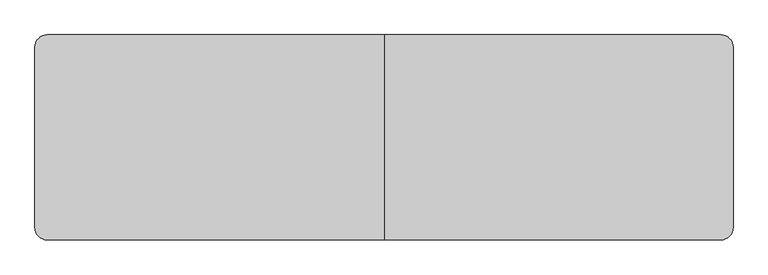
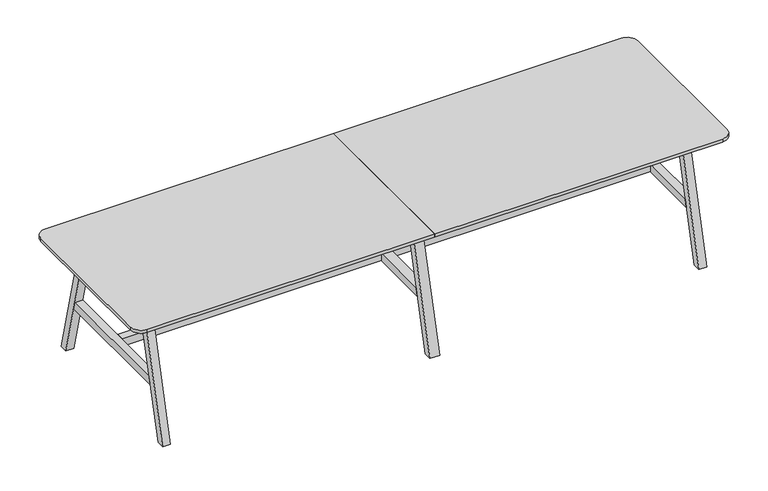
"""IFC4 building model written with IfcOpenShell, lengths in millimetres: furniture geometry, BDG_BossDesign_Tbls_AgentTables6Legs : AGE-DT-6L-3400-1000-3D."""

from ifc_helpers import new_model, si_unit, point, frame, frame_2d, origin, place, context, project, spatial, polyline, circle_curve, trimmed, segment, composite_curve, outline, extrude, source, transform, mapped, element, save


def furniture_128a932d(model_context):
    return source(origin(), model_context, "Body", "SweptSolid", [
        extrude(outline(polyline([(500.0, 0.0), (454.9999949, 0.0), (285.5, 660.0), (330.5000051, 660.0), (500.0, 0.0)])), frame((-27.5, 0.0, 0.0), z_axis=(1.0, 0.0, 0.0), x_axis=(0.0, 1.0, 0.0)), (0.0, 0.0, 1.0), 55.0),
        extrude(outline(polyline([(-500.0, 0.0), (-330.5000051, 660.0), (-285.5, 660.0), (-454.9999949, 0.0), (-500.0, 0.0)])), frame((-27.5, 0.0, 0.0), z_axis=(1.0, 0.0, 0.0), x_axis=(0.0, 1.0, 0.0)), (0.0, 0.0, 1.0), 55.0),
        extrude(outline(polyline([(377.9545427, 300.0), (-377.9545427, 300.0), (-366.3977249, 345.0), (366.3977249, 345.0), (377.9545427, 300.0)])), frame((-27.5, 0.0, 0.0), z_axis=(1.0, 0.0, 0.0), x_axis=(0.0, 1.0, 0.0)), (0.0, 0.0, 1.0), 55.0),
        extrude(outline(composite_curve([segment(polyline([(0.0, 500.0), (0.0, -500.0), (-1640.0, -500.0)]), True, "CONTINUOUS"), segment(trimmed(circle_curve(frame_2d((-1640.0, -440.0)), 60.0), [point((-1640.0, -500.0))], [point((-1700.0, -440.0))], False, "CARTESIAN"), True, "CONTINUOUS"), segment(polyline([(-1700.0, -440.0), (-1700.0, 440.0)]), True, "CONTINUOUS"), segment(trimmed(circle_curve(frame_2d((-1640.0, 440.0)), 60.0), [point((-1700.0, 440.0))], [point((-1640.0, 500.0))], False, "CARTESIAN"), True, "CONTINUOUS"), segment(polyline([(-1640.0, 500.0), (0.0, 500.0)]), True, "CONTINUOUS")], self_intersect=False)), frame((0.0, 0.0, 722.0), z_axis=(0.0, 0.0, 1.0), x_axis=(1.0, 0.0, 0.0)), (0.0, 0.0, 1.0), 18.0),
        extrude(outline(polyline([(-366.3977249, 345.0), (366.3977249, 345.0), (377.9545427, 300.0), (-377.9545427, 300.0), (-366.3977249, 345.0)])), frame((1505.0, 0.0, 0.0), z_axis=(1.0, 0.0, 0.0), x_axis=(0.0, 1.0, 0.0)), (0.0, 0.0, 1.0), 45.0),
        extrude(outline(polyline([(500.0, 0.0), (454.9999949, 0.0), (285.5, 660.0), (330.5000051, 660.0), (500.0, 0.0)])), frame((-1550.0, 0.0, 0.0), z_axis=(1.0, 0.0, 0.0), x_axis=(0.0, 1.0, 0.0)), (0.0, 0.0, 1.0), 45.0),
        extrude(outline(polyline([(-500.0, 0.0), (-330.5000051, 660.0), (-285.5, 660.0), (-454.9999949, 0.0), (-500.0, 0.0)])), frame((-1550.0, 0.0, 0.0), z_axis=(1.0, 0.0, 0.0), x_axis=(0.0, 1.0, 0.0)), (0.0, 0.0, 1.0), 45.0),
        extrude(outline(polyline([(-366.3977249, 345.0), (366.3977249, 345.0), (377.9545427, 300.0), (-377.9545427, 300.0), (-366.3977249, 345.0)])), frame((-1550.0, 0.0, 0.0), z_axis=(1.0, 0.0, 0.0), x_axis=(0.0, 1.0, 0.0)), (0.0, 0.0, 1.0), 45.0),
        extrude(outline(polyline([(-326.6006165, 634.973938), (-304.2770691, 722.0), (-279.5, 722.0), (-301.8235474, 634.973938), (-326.6006165, 634.973938)])), frame((-1505.0, 0.0, 0.0), z_axis=(1.0, 0.0, 0.0), x_axis=(0.0, 1.0, 0.0)), (0.0, 0.0, 1.0), 3010.0),
        extrude(outline(polyline([(326.6006165, 634.973938), (301.8235474, 634.973938), (279.5, 722.0), (304.2770691, 722.0), (326.6006165, 634.973938)])), frame((-1505.0, 0.0, 0.0), z_axis=(1.0, 0.0, 0.0), x_axis=(0.0, 1.0, 0.0)), (0.0, 0.0, 1.0), 3010.0),
        extrude(outline(polyline([(499.7999878, 0.0), (454.7999827, 0.0), (285.5, 660.0), (330.5000051, 660.0), (499.7999878, 0.0)])), frame((1505.0, 0.0, 0.0), z_axis=(1.0, 0.0, 0.0), x_axis=(0.0, 1.0, 0.0)), (0.0, 0.0, 1.0), 45.0),
        extrude(outline(polyline([(-499.7999878, 0.0), (-330.5000051, 660.0), (-285.5, 660.0), (-454.7999827, 0.0), (-499.7999878, 0.0)])), frame((1505.0, 0.0, 0.0), z_axis=(1.0, 0.0, 0.0), x_axis=(0.0, 1.0, 0.0)), (0.0, 0.0, 1.0), 45.0),
        extrude(outline(polyline([(-27.5, 22.5000305), (-27.5, -22.5000305), (-1505.0, -22.5000305), (-1505.0, 22.5000305), (-27.5, 22.5000305)])), frame((0.0, 0.0, 300.0), z_axis=(0.0, 0.0, 1.0), x_axis=(1.0, 0.0, 0.0)), (0.0, 0.0, 1.0), 45.0),
        extrude(outline(polyline([(27.5, -22.5000305), (27.5, 22.5000305), (1505.0, 22.5000305), (1505.0, -22.5000305), (27.5, -22.5000305)])), frame((0.0, 0.0, 300.0), z_axis=(0.0, 0.0, 1.0), x_axis=(1.0, 0.0, 0.0)), (0.0, 0.0, 1.0), 45.0),
        extrude(outline(composite_curve([segment(trimmed(circle_curve(frame_2d((1640.0, 440.0)), 60.0), [point((1640.0, 500.0))], [point((1700.0, 440.0))], False, "CARTESIAN"), True, "CONTINUOUS"), segment(polyline([(1700.0, 440.0), (1700.0, -440.0)]), True, "CONTINUOUS"), segment(trimmed(circle_curve(frame_2d((1640.0, -440.0)), 60.0), [point((1700.0, -440.0))], [point((1640.0, -500.0))], False, "CARTESIAN"), True, "CONTINUOUS"), segment(polyline([(1640.0, -500.0), (0.0, -500.0), (0.0, 500.0), (1640.0, 500.0)]), True, "CONTINUOUS")], self_intersect=False)), frame((0.0, 0.0, 722.0), z_axis=(0.0, 0.0, 1.0), x_axis=(1.0, 0.0, 0.0)), (0.0, 0.0, 1.0), 18.0),
    ])


if __name__ == "__main__":
    model = new_model("IFC4")
    model_context = context("Model", 3, world=origin())
    ifc_project = project(units=[si_unit("LENGTHUNIT", "METRE", prefix="MILLI")], contexts=[model_context])
    site = spatial("IfcSite", under=ifc_project)
    building = spatial("IfcBuilding", under=site)
    placement = place(None, origin())
    furniture_shape = furniture_128a932d(model_context)
    element("IfcFurniture", 1, ObjectType="BDG_BossDesign_Tbls_AgentTables6Legs : AGE-DT-6L-3400-1000-3D", at=placement, inside=building, context=model_context, shape_type="MappedRepresentation", body=[
        mapped(furniture_shape, transform((0.0, 0.0, 0.0), x_axis=(1.0, 0.0, 0.0), y_axis=(0.0, 1.0, 0.0), z_axis=(0.0, 0.0, 1.0))),
    ])
    save(model, "model.ifc")
